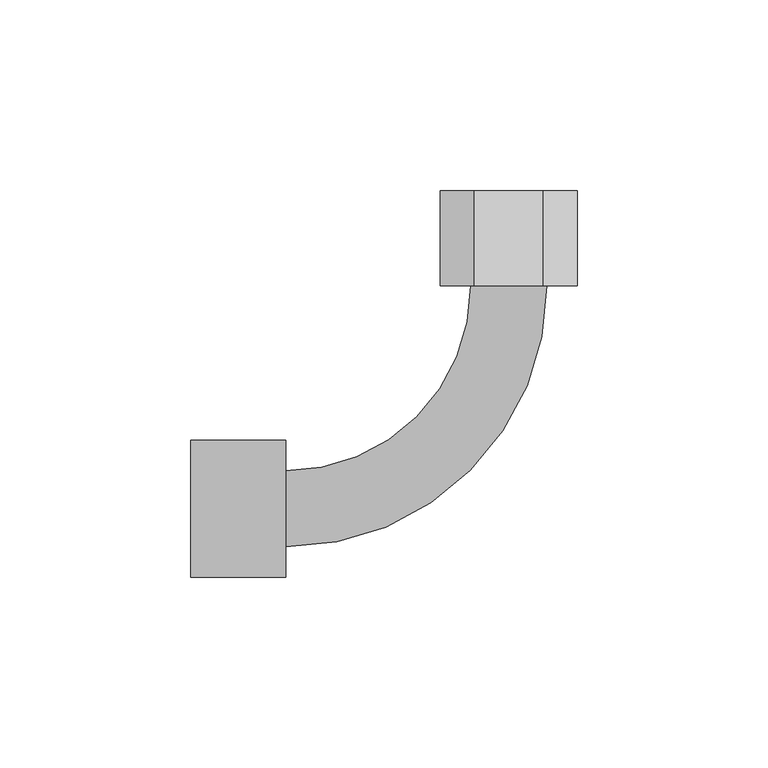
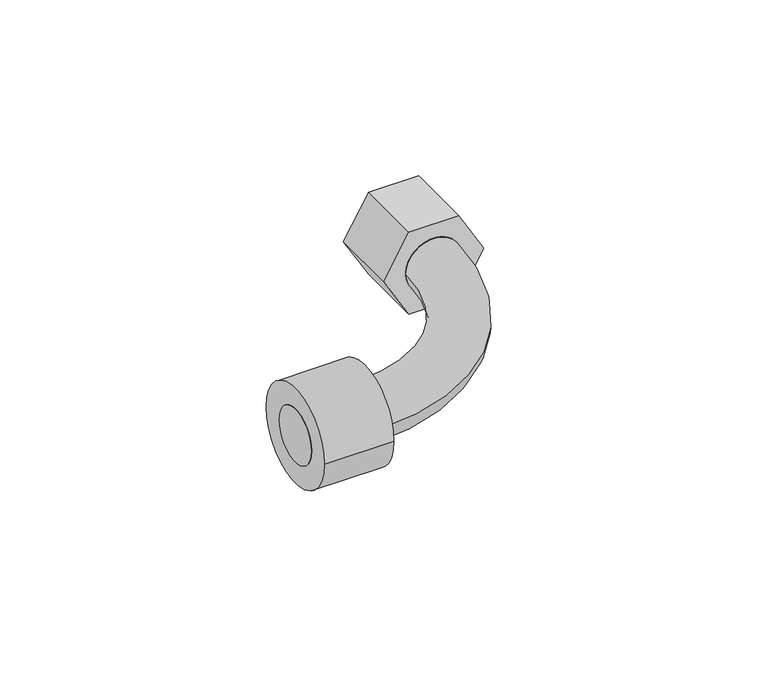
"""IFC4 building model written with IfcOpenShell, lengths in millimetres: cable carrier fitting geometry, Муфта гибкая труба-коробка CXS : Муфта гибкая труба-коробка CXS."""

from ifc_helpers import new_model, si_unit, point, frame, origin, origin_2d, place, context, project, spatial, polyline, circle_curve, ellipse_curve, trimmed, segment, composite_curve, outline, extrude, source, transform, mapped, element, save
from ifc_brep_helpers import plane_surface, cylinder_surface, revolved_surface, advanced_brep


def cable_carrier_fitting_822ce13a(model_context):
    return source(origin(), model_context, "Body", "SolidModel", [
        advanced_brep(
        [(-83.4898, -9.9949, 0.0), (-83.4898, 9.9949, 0.0), (-58.4962, -9.9949, 0.0), (-58.4962, 9.9949, 0.0), (-9.9949, 58.4962, 0.0), (9.9949, 58.4962, 0.0), (9.9949, 83.4898, 0.0), (-9.9949, 83.4898, 0.0)],
        [
            (0, 1, circle_curve(frame((-83.4898, 0.0, 0.0), z_axis=(-1.0, 0.0, 0.0), x_axis=(0.0, 1.0, 0.0)), 9.9949)),
            (1, 0, circle_curve(frame((-83.4898, 0.0, 0.0), z_axis=(-1.0, 0.0, 0.0), x_axis=(0.0, 1.0, 0.0)), 9.9949)),
            (0, 2),
            (2, 3, circle_curve(frame((-58.4962, 0.0, 0.0), z_axis=(-1.0, 0.0, 0.0), x_axis=(0.0, 1.0, 0.0)), 9.9949)),
            (3, 1),
            (3, 2, circle_curve(frame((-58.4962, 0.0, 0.0), z_axis=(-1.0, 0.0, 0.0), x_axis=(0.0, 1.0, 0.0)), 9.9949)),
            (4, 3, circle_curve(frame((-58.4962, 58.4962, 0.0), z_axis=(0.0, 0.0, -1.0), x_axis=(0.0, -1.0, 0.0)), 48.5013)),
            (2, 5, circle_curve(frame((-58.4962, 58.4962, 0.0), z_axis=(0.0, 0.0, 1.0), x_axis=(0.0, -1.0, 0.0)), 68.4911)),
            (5, 4, circle_curve(frame((0.0, 58.4962, 0.0), z_axis=(0.0, -1.0, 0.0), x_axis=(-1.0, 0.0, 0.0)), 9.9949)),
            (4, 5, circle_curve(frame((0.0, 58.4962, 0.0), z_axis=(0.0, -1.0, 0.0), x_axis=(-1.0, 0.0, 0.0)), 9.9949)),
            (6, 7, circle_curve(frame((0.0, 83.4898, 0.0), z_axis=(0.0, 1.0, 0.0), x_axis=(-1.0, 0.0, 0.0)), 9.9949)),
            (7, 6, circle_curve(frame((0.0, 83.4898, 0.0), z_axis=(0.0, 1.0, 0.0), x_axis=(-1.0, 0.0, 0.0)), 9.9949)),
            (5, 6),
            (7, 4),
        ],
        [
            plane_surface(frame((-83.4898, 0.0, 0.0), z_axis=(-1.0, 0.0, 0.0), x_axis=(0.0, 0.0, 1.0))),
            cylinder_surface(frame((-83.4898, 0.0, 0.0), z_axis=(-1.0, 0.0, 0.0), x_axis=(0.0, 1.0, 0.0)), 9.9949),
            revolved_surface(trimmed(ellipse_curve(frame((-58.4962, 0.0, 0.0), z_axis=(-1.0, 0.0, 0.0), x_axis=(0.0, 1.0, 0.0)), 9.9949, 9.9949), [point((-58.4962, -9.9949, 0.0))], [point((-58.4962, 9.9949, 0.0))], True, "CARTESIAN"), (-58.4962, 58.4962, 0.0), (0.0, 0.0, 1.0)),
            revolved_surface(trimmed(ellipse_curve(frame((-58.4962, 0.0, 0.0), z_axis=(-1.0, 0.0, 0.0), x_axis=(0.0, 1.0, 0.0)), 9.9949, 9.9949), [point((-58.4962, 9.9949, 0.0))], [point((-58.4962, -9.9949, 0.0))], True, "CARTESIAN"), (-58.4962, 58.4962, 0.0), (0.0, 0.0, 1.0)),
            plane_surface(frame((0.0, 83.4898, 0.0), z_axis=(0.0, 1.0, 0.0), x_axis=(0.0, 0.0, 1.0))),
            cylinder_surface(frame((0.0, 58.4962, 0.0), z_axis=(0.0, -1.0, 0.0), x_axis=(-1.0, 0.0, 0.0)), 9.9949),
        ],
        [
            (0, [[1, 2]]),
            (1, [[-1, 3, 4, 5]]),
            (1, [[-2, -5, 6, -3]]),
            (2, [[7, -4, 8, 9]]),
            (3, [[-8, -6, -7, 10]]),
            (4, [[11, 12]]),
            (5, [[-9, 13, -12, 14]]),
            (5, [[-10, -14, -11, -13]]),
        ],
    ),
        extrude(outline(composite_curve([segment(trimmed(circle_curve(origin_2d(), 18.0), [point((-18.0, 0.0))], [point((18.0, 0.0))], False, "CARTESIAN"), True, "CONTINUOUS"), segment(trimmed(circle_curve(origin_2d(), 18.0), [point((18.0, 0.0))], [point((-18.0, 0.0))], False, "CARTESIAN"), True, "CONTINUOUS")], self_intersect=False)), frame((-83.4898, 0.0, 0.0), z_axis=(1.0, 0.0, 0.0), x_axis=(0.0, 1.0, 0.0)), (0.0, 0.0, 1.0), 24.9936),
        extrude(outline(polyline([(-15.5884573, 9.0), (0.0, 18.0), (15.5884573, 9.0), (15.5884573, -9.0), (0.0, -18.0), (-15.5884573, -9.0), (-15.5884573, 9.0)])), frame((0.0, 58.4962, 0.0), z_axis=(0.0, 1.0, 0.0), x_axis=(0.0, 0.0, 1.0)), (0.0, 0.0, 1.0), 24.9936),
    ])


if __name__ == "__main__":
    model = new_model("IFC4")
    model_context = context("Model", 3, world=origin())
    ifc_project = project(units=[si_unit("LENGTHUNIT", "METRE", prefix="MILLI")], contexts=[model_context])
    site = spatial("IfcSite", under=ifc_project)
    building = spatial("IfcBuilding", under=site)
    placement = place(None, origin())
    cable_carrier_fitting_shape = cable_carrier_fitting_822ce13a(model_context)
    element("IfcCableCarrierFitting", 1, ObjectType="Муфта гибкая труба-коробка CXS : Муфта гибкая труба-коробка CXS", at=placement, inside=building, context=model_context, shape_type="MappedRepresentation", body=[
        mapped(cable_carrier_fitting_shape, transform((0.0, 0.0, 0.0), x_axis=(1.0, 0.0, 0.0), y_axis=(0.0, 1.0, 0.0), z_axis=(0.0, 0.0, 1.0))),
    ])
    save(model, "model.ifc")
